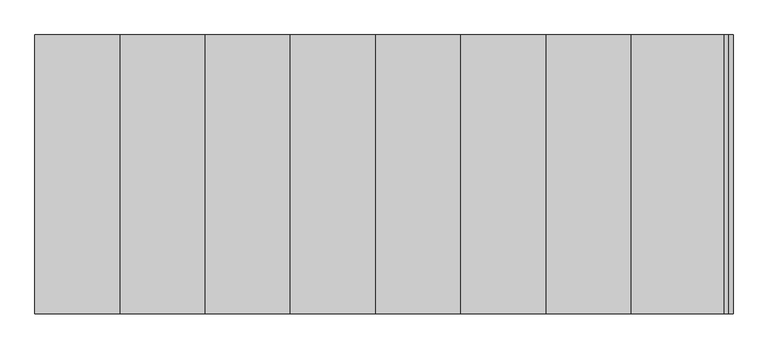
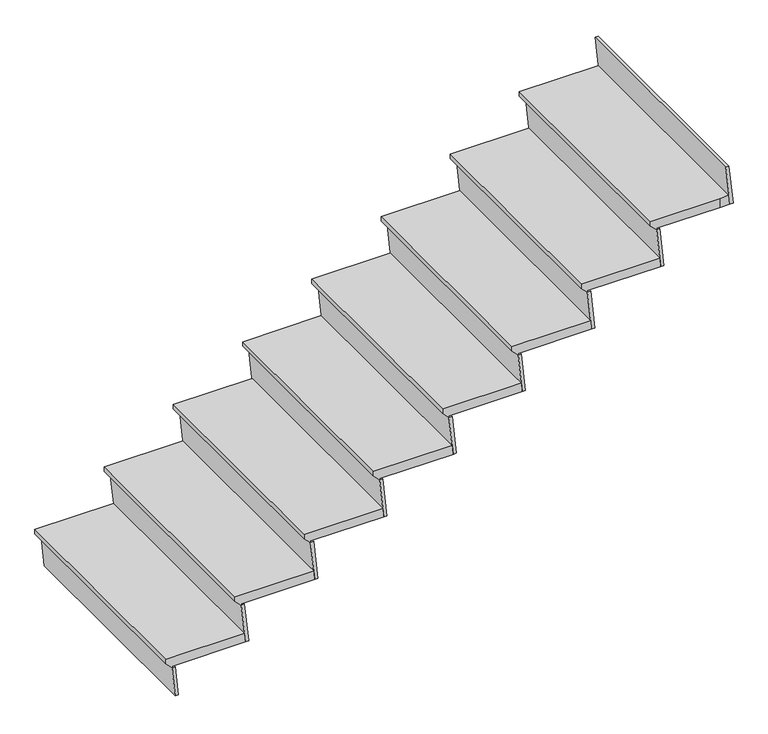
"""IFC4 building model written with IfcOpenShell, lengths in millimetres: stair flight geometry."""

from ifc_helpers import new_model, si_unit, origin, place, context, project, spatial, faceted_brep, source, transform, mapped, element, save


def stair_flight_35474383(model_context):
    return source(origin(), model_context, "Body", "Brep", [
        faceted_brep([(-17439.1481446, 16106.3635042, 169.3333333), (-17435.2735684, 16106.3635042, 131.2333333), (-17435.2735684, 17020.7635042, 131.2333333), (-17439.1481446, 17020.7635042, 169.3333333), (-17756.6481446, 17020.7635042, 169.3333333), (-17756.6481446, 16106.3635042, 169.3333333), (-17731.2481446, 16106.3635042, 131.2333333), (-17731.2481446, 17020.7635042, 131.2333333), (-17731.2481446, 17020.7635042, 124.8833333), (-17756.6481446, 17020.7635042, 150.2833333), (-17756.6481446, 16106.3635042, 150.2833333), (-17731.2481446, 16106.3635042, 124.8833333)], [[[0, 1, 2, 3]], [[4, 5, 0, 3]], [[2, 1, 6, 7]], [[4, 3, 2, 7, 8, 9]], [[0, 5, 10, 11, 6, 1]], [[10, 5, 4, 9]], [[11, 10, 9, 8]], [[11, 8, 7, 6]]]),
        faceted_brep([(-17731.2481446, 16106.3635042, 124.8833333), (-17718.5481446, 16106.3635042, 0.0), (-17705.7826428, 16106.3635042, 0.0), (-17718.4826428, 16106.3635042, 124.8833333), (-17731.2481446, 17020.7635042, 124.8833333), (-17718.4826428, 17020.7635042, 124.8833333), (-17705.7826428, 17020.7635042, 0.0), (-17718.5481446, 17020.7635042, 0.0)], [[[0, 1, 2, 3]], [[4, 5, 6, 7]], [[1, 0, 4, 7]], [[2, 1, 7, 6]], [[3, 2, 6, 5]], [[0, 3, 5, 4]]]),
        faceted_brep([(-17451.8481446, 16106.3635042, 294.2166667), (-17435.2735684, 16106.3635042, 131.2333333), (-17422.5080665, 16106.3635042, 131.2333333), (-17439.0826428, 16106.3635042, 294.2166667), (-17451.8481446, 17020.7635042, 294.2166667), (-17439.0826428, 17020.7635042, 294.2166667), (-17422.5080665, 17020.7635042, 131.2333333), (-17435.2735684, 17020.7635042, 131.2333333)], [[[0, 1, 2, 3]], [[4, 5, 6, 7]], [[1, 0, 4, 7]], [[2, 1, 7, 6]], [[3, 2, 6, 5]], [[0, 3, 5, 4]]]),
        faceted_brep([(-17477.2481446, 17020.7635042, 338.6666667), (-17477.2481446, 16106.3635042, 338.6666667), (-17159.7481446, 16106.3635042, 338.6666667), (-17159.7481446, 17020.7635042, 338.6666667), (-17155.8735684, 17020.7635042, 300.5666667), (-17155.8735684, 16106.3635042, 300.5666667), (-17451.8481446, 16106.3635042, 300.5666667), (-17451.8481446, 17020.7635042, 300.5666667), (-17451.8481446, 17020.7635042, 294.2166667), (-17477.2481446, 17020.7635042, 319.6166667), (-17477.2481446, 16106.3635042, 319.6166667), (-17451.8481446, 16106.3635042, 294.2166667)], [[[0, 1, 2, 3]], [[4, 5, 6, 7]], [[0, 3, 4, 7, 8, 9]], [[2, 1, 10, 11, 6, 5]], [[2, 5, 4, 3]], [[10, 1, 0, 9]], [[11, 10, 9, 8]], [[11, 8, 7, 6]]]),
        faceted_brep([(-17172.4481446, 16106.3635042, 463.55), (-17155.8735684, 16106.3635042, 300.5666667), (-17143.1080665, 16106.3635042, 300.5666667), (-17159.6826428, 16106.3635042, 463.55), (-17172.4481446, 17020.7635042, 463.55), (-17159.6826428, 17020.7635042, 463.55), (-17143.1080665, 17020.7635042, 300.5666667), (-17155.8735684, 17020.7635042, 300.5666667)], [[[0, 1, 2, 3]], [[4, 5, 6, 7]], [[1, 0, 4, 7]], [[2, 1, 7, 6]], [[3, 2, 6, 5]], [[0, 3, 5, 4]]]),
        faceted_brep([(-17197.8481446, 17020.7635042, 508.0), (-17197.8481446, 16106.3635042, 508.0), (-16880.3481446, 16106.3635042, 508.0), (-16880.3481446, 17020.7635042, 508.0), (-16876.4735684, 17020.7635042, 469.9), (-16876.4735684, 16106.3635042, 469.9), (-17172.4481446, 16106.3635042, 469.9), (-17172.4481446, 17020.7635042, 469.9), (-17172.4481446, 17020.7635042, 463.55), (-17197.8481446, 17020.7635042, 488.95), (-17197.8481446, 16106.3635042, 488.95), (-17172.4481446, 16106.3635042, 463.55)], [[[0, 1, 2, 3]], [[4, 5, 6, 7]], [[0, 3, 4, 7, 8, 9]], [[2, 1, 10, 11, 6, 5]], [[2, 5, 4, 3]], [[10, 1, 0, 9]], [[11, 10, 9, 8]], [[11, 8, 7, 6]]]),
        faceted_brep([(-16893.0481446, 16106.3635042, 632.8833333), (-16876.4735684, 16106.3635042, 469.9), (-16863.7080665, 16106.3635042, 469.9), (-16880.2826428, 16106.3635042, 632.8833333), (-16893.0481446, 17020.7635042, 632.8833333), (-16880.2826428, 17020.7635042, 632.8833333), (-16863.7080665, 17020.7635042, 469.9), (-16876.4735684, 17020.7635042, 469.9)], [[[0, 1, 2, 3]], [[4, 5, 6, 7]], [[1, 0, 4, 7]], [[2, 1, 7, 6]], [[3, 2, 6, 5]], [[0, 3, 5, 4]]]),
        faceted_brep([(-16918.4481446, 17020.7635042, 677.3333333), (-16918.4481446, 16106.3635042, 677.3333333), (-16600.9481446, 16106.3635042, 677.3333333), (-16600.9481446, 17020.7635042, 677.3333333), (-16597.0735684, 17020.7635042, 639.2333333), (-16597.0735684, 16106.3635042, 639.2333333), (-16893.0481446, 16106.3635042, 639.2333333), (-16893.0481446, 17020.7635042, 639.2333333), (-16893.0481446, 17020.7635042, 632.8833333), (-16918.4481446, 17020.7635042, 658.2833333), (-16918.4481446, 16106.3635042, 658.2833333), (-16893.0481446, 16106.3635042, 632.8833333)], [[[0, 1, 2, 3]], [[4, 5, 6, 7]], [[0, 3, 4, 7, 8, 9]], [[2, 1, 10, 11, 6, 5]], [[2, 5, 4, 3]], [[10, 1, 0, 9]], [[11, 10, 9, 8]], [[11, 8, 7, 6]]]),
        faceted_brep([(-16613.6481446, 16106.3635042, 802.2166667), (-16597.0735684, 16106.3635042, 639.2333333), (-16584.3080665, 16106.3635042, 639.2333333), (-16600.8826428, 16106.3635042, 802.2166667), (-16613.6481446, 17020.7635042, 802.2166667), (-16600.8826428, 17020.7635042, 802.2166667), (-16584.3080665, 17020.7635042, 639.2333333), (-16597.0735684, 17020.7635042, 639.2333333)], [[[0, 1, 2, 3]], [[4, 5, 6, 7]], [[1, 0, 4, 7]], [[2, 1, 7, 6]], [[3, 2, 6, 5]], [[0, 3, 5, 4]]]),
        faceted_brep([(-16639.0481446, 17020.7635042, 846.6666667), (-16639.0481446, 16106.3635042, 846.6666667), (-16321.5481446, 16106.3635042, 846.6666667), (-16321.5481446, 17020.7635042, 846.6666667), (-16317.6735684, 17020.7635042, 808.5666667), (-16317.6735684, 16106.3635042, 808.5666667), (-16613.6481446, 16106.3635042, 808.5666667), (-16613.6481446, 17020.7635042, 808.5666667), (-16613.6481446, 17020.7635042, 802.2166667), (-16639.0481446, 17020.7635042, 827.6166667), (-16639.0481446, 16106.3635042, 827.6166667), (-16613.6481446, 16106.3635042, 802.2166667)], [[[0, 1, 2, 3]], [[4, 5, 6, 7]], [[0, 3, 4, 7, 8, 9]], [[2, 1, 10, 11, 6, 5]], [[2, 5, 4, 3]], [[10, 1, 0, 9]], [[11, 10, 9, 8]], [[11, 8, 7, 6]]]),
        faceted_brep([(-16334.2481446, 16106.3635042, 971.55), (-16317.6735684, 16106.3635042, 808.5666667), (-16304.9080665, 16106.3635042, 808.5666667), (-16321.4826428, 16106.3635042, 971.55), (-16334.2481446, 17020.7635042, 971.55), (-16321.4826428, 17020.7635042, 971.55), (-16304.9080665, 17020.7635042, 808.5666667), (-16317.6735684, 17020.7635042, 808.5666667)], [[[0, 1, 2, 3]], [[4, 5, 6, 7]], [[1, 0, 4, 7]], [[2, 1, 7, 6]], [[3, 2, 6, 5]], [[0, 3, 5, 4]]]),
        faceted_brep([(-16359.6481446, 17020.7635042, 1016.0), (-16359.6481446, 16106.3635042, 1016.0), (-16042.1481446, 16106.3635042, 1016.0), (-16042.1481446, 17020.7635042, 1016.0), (-16038.2735684, 17020.7635042, 977.9), (-16038.2735684, 16106.3635042, 977.9), (-16334.2481446, 16106.3635042, 977.9), (-16334.2481446, 17020.7635042, 977.9), (-16334.2481446, 17020.7635042, 971.55), (-16359.6481446, 17020.7635042, 996.95), (-16359.6481446, 16106.3635042, 996.95), (-16334.2481446, 16106.3635042, 971.55)], [[[0, 1, 2, 3]], [[4, 5, 6, 7]], [[0, 3, 4, 7, 8, 9]], [[2, 1, 10, 11, 6, 5]], [[2, 5, 4, 3]], [[10, 1, 0, 9]], [[11, 10, 9, 8]], [[11, 8, 7, 6]]]),
        faceted_brep([(-16054.8481446, 16106.3635042, 1140.8833333), (-16038.2735684, 16106.3635042, 977.9), (-16025.5080665, 16106.3635042, 977.9), (-16042.0826428, 16106.3635042, 1140.8833333), (-16054.8481446, 17020.7635042, 1140.8833333), (-16042.0826428, 17020.7635042, 1140.8833333), (-16025.5080665, 17020.7635042, 977.9), (-16038.2735684, 17020.7635042, 977.9)], [[[0, 1, 2, 3]], [[4, 5, 6, 7]], [[1, 0, 4, 7]], [[2, 1, 7, 6]], [[3, 2, 6, 5]], [[0, 3, 5, 4]]]),
        faceted_brep([(-16080.2481446, 17020.7635042, 1185.3333333), (-16080.2481446, 16106.3635042, 1185.3333333), (-15762.7481446, 16106.3635042, 1185.3333333), (-15762.7481446, 17020.7635042, 1185.3333333), (-15758.8735684, 17020.7635042, 1147.2333333), (-15758.8735684, 16106.3635042, 1147.2333333), (-16054.8481446, 16106.3635042, 1147.2333333), (-16054.8481446, 17020.7635042, 1147.2333333), (-16054.8481446, 17020.7635042, 1140.8833333), (-16080.2481446, 17020.7635042, 1166.2833333), (-16080.2481446, 16106.3635042, 1166.2833333), (-16054.8481446, 16106.3635042, 1140.8833333)], [[[0, 1, 2, 3]], [[4, 5, 6, 7]], [[0, 3, 4, 7, 8, 9]], [[2, 1, 10, 11, 6, 5]], [[2, 5, 4, 3]], [[10, 1, 0, 9]], [[11, 10, 9, 8]], [[11, 8, 7, 6]]]),
        faceted_brep([(-15496.0481446, 16106.3635042, 1479.55), (-15479.4735684, 16106.3635042, 1316.5666667), (-15466.7080665, 16106.3635042, 1316.5666667), (-15483.2826428, 16106.3635042, 1479.55), (-15496.0481446, 17020.7635042, 1479.55), (-15483.2826428, 17020.7635042, 1479.55), (-15466.7080665, 17020.7635042, 1316.5666667), (-15479.4735684, 17020.7635042, 1316.5666667)], [[[0, 1, 2, 3]], [[4, 5, 6, 7]], [[1, 0, 4, 7]], [[2, 1, 7, 6]], [[3, 2, 6, 5]], [[0, 3, 5, 4]]]),
        faceted_brep([(-15775.4481446, 16106.3635042, 1310.2166667), (-15758.8735684, 16106.3635042, 1147.2333333), (-15746.1080665, 16106.3635042, 1147.2333333), (-15762.6826428, 16106.3635042, 1310.2166667), (-15775.4481446, 17020.7635042, 1310.2166667), (-15762.6826428, 17020.7635042, 1310.2166667), (-15746.1080665, 17020.7635042, 1147.2333333), (-15758.8735684, 17020.7635042, 1147.2333333)], [[[0, 1, 2, 3]], [[4, 5, 6, 7]], [[1, 0, 4, 7]], [[2, 1, 7, 6]], [[3, 2, 6, 5]], [[0, 3, 5, 4]]]),
        faceted_brep([(-15800.8481446, 17020.7635042, 1354.6666667), (-15800.8481446, 16106.3635042, 1354.6666667), (-15521.4481446, 16106.3635042, 1354.6666667), (-15483.3481446, 16106.3635042, 1354.6666667), (-15483.3481446, 17020.7635042, 1354.6666667), (-15521.4481446, 16106.3635042, 1316.5666667), (-15775.4481446, 16106.3635042, 1316.5666667), (-15775.4481446, 17020.7635042, 1316.5666667), (-15479.4735684, 17020.7635042, 1316.5666667), (-15479.4735684, 16106.3635042, 1316.5666667), (-15775.4481446, 17020.7635042, 1310.2166667), (-15800.8481446, 17020.7635042, 1335.6166667), (-15800.8481446, 16106.3635042, 1335.6166667), (-15775.4481446, 16106.3635042, 1310.2166667)], [[[0, 1, 2, 3, 4]], [[5, 6, 7, 8, 9]], [[0, 4, 8, 7, 10, 11]], [[2, 1, 12, 13, 6, 5]], [[3, 2, 5, 9]], [[3, 9, 8, 4]], [[12, 1, 0, 11]], [[13, 12, 11, 10]], [[13, 10, 7, 6]]]),
    ])


if __name__ == "__main__":
    model = new_model("IFC4")
    model_context = context("Model", 3, world=origin())
    ifc_project = project(units=[si_unit("LENGTHUNIT", "METRE", prefix="MILLI")], contexts=[model_context])
    site = spatial("IfcSite", under=ifc_project)
    building = spatial("IfcBuilding", under=site)
    placement = place(None, origin())
    stair_flight_shape = stair_flight_35474383(model_context)
    element("IfcStairFlight", 1, ObjectType="Unassigned Steps with 1 1/2\" Tread 1 1/2\" Nosing 1/2\" Riser", at=placement, inside=building, context=model_context, shape_type="MappedRepresentation", body=[
        mapped(stair_flight_shape, transform((0.0, 0.0, 0.0), x_axis=(1.0, 0.0, 0.0), y_axis=(0.0, 1.0, 0.0), z_axis=(0.0, 0.0, 1.0))),
    ])
    save(model, "model.ifc")
